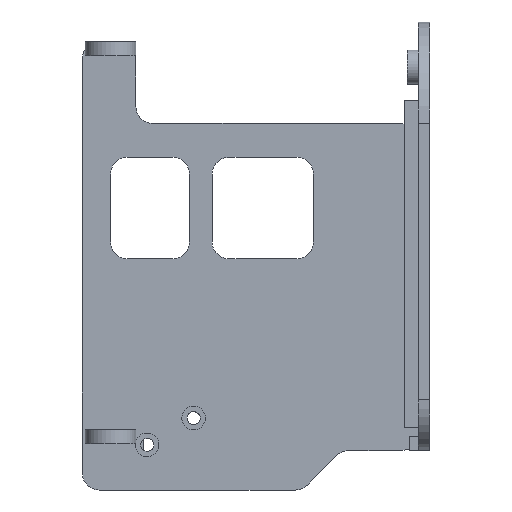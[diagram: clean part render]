
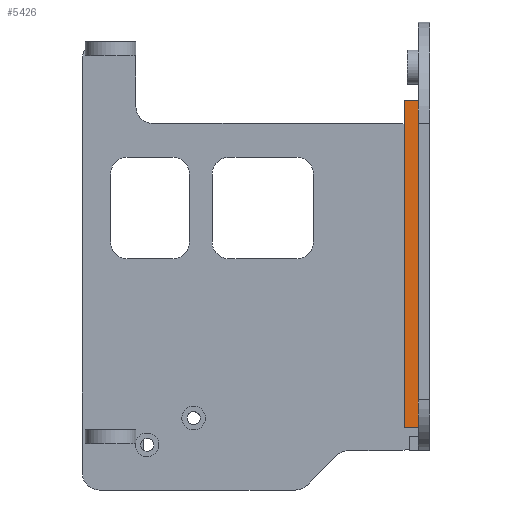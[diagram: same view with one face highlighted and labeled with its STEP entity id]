
A CAD part, left-side view. The second image highlights one B-rep face of the part: STEP entity #5426.
In plain terms, the highlighted planar face has unit normal (-1, 0, 0).
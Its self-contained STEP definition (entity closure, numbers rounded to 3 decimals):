
#100 = PLANE('',#101);
#101 = AXIS2_PLACEMENT_3D('',#102,#103,#104);
#102 = CARTESIAN_POINT('',(-54.,-42.6,180.));
#103 = DIRECTION('',(-0.,1.,0.));
#104 = DIRECTION('',(0.,0.,1.));
#1209 = VERTEX_POINT('',#1210);
#1210 = CARTESIAN_POINT('',(-44.8,-42.6,242.));
#1225 = PLANE('',#1226);
#1226 = AXIS2_PLACEMENT_3D('',#1227,#1228,#1229);
#1227 = CARTESIAN_POINT('',(-44.8,-42.7,242.));
#1228 = DIRECTION('',(0.,0.,1.));
#1229 = DIRECTION('',(1.,0.,-0.));
#1236 = EDGE_CURVE('',#1209,#1237,#1239,.T.);
#1237 = VERTEX_POINT('',#1238);
#1238 = CARTESIAN_POINT('',(-44.8,-42.6,184.));
#1239 = SURFACE_CURVE('',#1240,(#1244,#1250),.PCURVE_S1.);
#1240 = LINE('',#1241,#1242);
#1241 = CARTESIAN_POINT('',(-44.8,-42.6,182.));
#1242 = VECTOR('',#1243,1.);
#1243 = DIRECTION('',(-0.,0.,-1.));
#1244 = PCURVE('',#100,#1245);
#1245 = DEFINITIONAL_REPRESENTATION('',(#1246),#1249);
#1246 = B_SPLINE_CURVE_WITH_KNOTS('',1,(#1247,#1248),.UNSPECIFIED.,.F.,
  .F.,(2,2),(-60.,-2.),.PIECEWISE_BEZIER_KNOTS.);
#1247 = CARTESIAN_POINT('',(62.,9.2));
#1248 = CARTESIAN_POINT('',(4.,9.2));
#1249 = ( GEOMETRIC_REPRESENTATION_CONTEXT(2) 
PARAMETRIC_REPRESENTATION_CONTEXT() REPRESENTATION_CONTEXT('2D SPACE',''
  ) );
#1250 = PCURVE('',#1251,#1256);
#1251 = PLANE('',#1252);
#1252 = AXIS2_PLACEMENT_3D('',#1253,#1254,#1255);
#1253 = CARTESIAN_POINT('',(-44.8,-42.7,184.));
#1254 = DIRECTION('',(1.,0.,-0.));
#1255 = DIRECTION('',(0.,0.,1.));
#1256 = DEFINITIONAL_REPRESENTATION('',(#1257),#1260);
#1257 = B_SPLINE_CURVE_WITH_KNOTS('',1,(#1258,#1259),.UNSPECIFIED.,.F.,
  .F.,(2,2),(-60.,-2.),.PIECEWISE_BEZIER_KNOTS.);
#1258 = CARTESIAN_POINT('',(58.,-0.1));
#1259 = CARTESIAN_POINT('',(0.,-0.1));
#1260 = ( GEOMETRIC_REPRESENTATION_CONTEXT(2) 
PARAMETRIC_REPRESENTATION_CONTEXT() REPRESENTATION_CONTEXT('2D SPACE',''
  ) );
#1277 = PLANE('',#1278);
#1278 = AXIS2_PLACEMENT_3D('',#1279,#1280,#1281);
#1279 = CARTESIAN_POINT('',(-44.8,-42.7,184.));
#1280 = DIRECTION('',(0.,0.,1.));
#1281 = DIRECTION('',(1.,0.,-0.));
#5354 = EDGE_CURVE('',#1209,#5355,#5357,.T.);
#5355 = VERTEX_POINT('',#5356);
#5356 = CARTESIAN_POINT('',(-44.8,-40.1,242.));
#5357 = SURFACE_CURVE('',#5358,(#5362,#5369),.PCURVE_S1.);
#5358 = LINE('',#5359,#5360);
#5359 = CARTESIAN_POINT('',(-44.8,-42.7,242.));
#5360 = VECTOR('',#5361,1.);
#5361 = DIRECTION('',(-0.,1.,0.));
#5362 = PCURVE('',#1225,#5363);
#5363 = DEFINITIONAL_REPRESENTATION('',(#5364),#5368);
#5364 = LINE('',#5365,#5366);
#5365 = CARTESIAN_POINT('',(0.,0.));
#5366 = VECTOR('',#5367,1.);
#5367 = DIRECTION('',(0.,1.));
#5368 = ( GEOMETRIC_REPRESENTATION_CONTEXT(2) 
PARAMETRIC_REPRESENTATION_CONTEXT() REPRESENTATION_CONTEXT('2D SPACE',''
  ) );
#5369 = PCURVE('',#1251,#5370);
#5370 = DEFINITIONAL_REPRESENTATION('',(#5371),#5375);
#5371 = LINE('',#5372,#5373);
#5372 = CARTESIAN_POINT('',(58.,0.));
#5373 = VECTOR('',#5374,1.);
#5374 = DIRECTION('',(0.,-1.));
#5375 = ( GEOMETRIC_REPRESENTATION_CONTEXT(2) 
PARAMETRIC_REPRESENTATION_CONTEXT() REPRESENTATION_CONTEXT('2D SPACE',''
  ) );
#5415 = PLANE('',#5416);
#5416 = AXIS2_PLACEMENT_3D('',#5417,#5418,#5419);
#5417 = CARTESIAN_POINT('',(-44.8,-40.1,184.));
#5418 = DIRECTION('',(-0.,1.,0.));
#5419 = DIRECTION('',(0.,0.,1.));
#5426 = ADVANCED_FACE('',(#5427),#1251,.F.);
#5427 = FACE_BOUND('',#5428,.F.);
#5428 = EDGE_LOOP('',(#5429,#5430,#5431,#5454));
#5429 = ORIENTED_EDGE('',*,*,#5354,.F.);
#5430 = ORIENTED_EDGE('',*,*,#1236,.T.);
#5431 = ORIENTED_EDGE('',*,*,#5432,.T.);
#5432 = EDGE_CURVE('',#1237,#5433,#5435,.T.);
#5433 = VERTEX_POINT('',#5434);
#5434 = CARTESIAN_POINT('',(-44.8,-40.1,184.));
#5435 = SURFACE_CURVE('',#5436,(#5440,#5447),.PCURVE_S1.);
#5436 = LINE('',#5437,#5438);
#5437 = CARTESIAN_POINT('',(-44.8,-42.7,184.));
#5438 = VECTOR('',#5439,1.);
#5439 = DIRECTION('',(-0.,1.,0.));
#5440 = PCURVE('',#1251,#5441);
#5441 = DEFINITIONAL_REPRESENTATION('',(#5442),#5446);
#5442 = LINE('',#5443,#5444);
#5443 = CARTESIAN_POINT('',(0.,0.));
#5444 = VECTOR('',#5445,1.);
#5445 = DIRECTION('',(0.,-1.));
#5446 = ( GEOMETRIC_REPRESENTATION_CONTEXT(2) 
PARAMETRIC_REPRESENTATION_CONTEXT() REPRESENTATION_CONTEXT('2D SPACE',''
  ) );
#5447 = PCURVE('',#1277,#5448);
#5448 = DEFINITIONAL_REPRESENTATION('',(#5449),#5453);
#5449 = LINE('',#5450,#5451);
#5450 = CARTESIAN_POINT('',(0.,0.));
#5451 = VECTOR('',#5452,1.);
#5452 = DIRECTION('',(0.,1.));
#5453 = ( GEOMETRIC_REPRESENTATION_CONTEXT(2) 
PARAMETRIC_REPRESENTATION_CONTEXT() REPRESENTATION_CONTEXT('2D SPACE',''
  ) );
#5454 = ORIENTED_EDGE('',*,*,#5455,.T.);
#5455 = EDGE_CURVE('',#5433,#5355,#5456,.T.);
#5456 = SURFACE_CURVE('',#5457,(#5461,#5468),.PCURVE_S1.);
#5457 = LINE('',#5458,#5459);
#5458 = CARTESIAN_POINT('',(-44.8,-40.1,184.));
#5459 = VECTOR('',#5460,1.);
#5460 = DIRECTION('',(0.,0.,1.));
#5461 = PCURVE('',#1251,#5462);
#5462 = DEFINITIONAL_REPRESENTATION('',(#5463),#5467);
#5463 = LINE('',#5464,#5465);
#5464 = CARTESIAN_POINT('',(0.,-2.6));
#5465 = VECTOR('',#5466,1.);
#5466 = DIRECTION('',(1.,0.));
#5467 = ( GEOMETRIC_REPRESENTATION_CONTEXT(2) 
PARAMETRIC_REPRESENTATION_CONTEXT() REPRESENTATION_CONTEXT('2D SPACE',''
  ) );
#5468 = PCURVE('',#5415,#5469);
#5469 = DEFINITIONAL_REPRESENTATION('',(#5470),#5474);
#5470 = LINE('',#5471,#5472);
#5471 = CARTESIAN_POINT('',(0.,0.));
#5472 = VECTOR('',#5473,1.);
#5473 = DIRECTION('',(1.,0.));
#5474 = ( GEOMETRIC_REPRESENTATION_CONTEXT(2) 
PARAMETRIC_REPRESENTATION_CONTEXT() REPRESENTATION_CONTEXT('2D SPACE',''
  ) );
